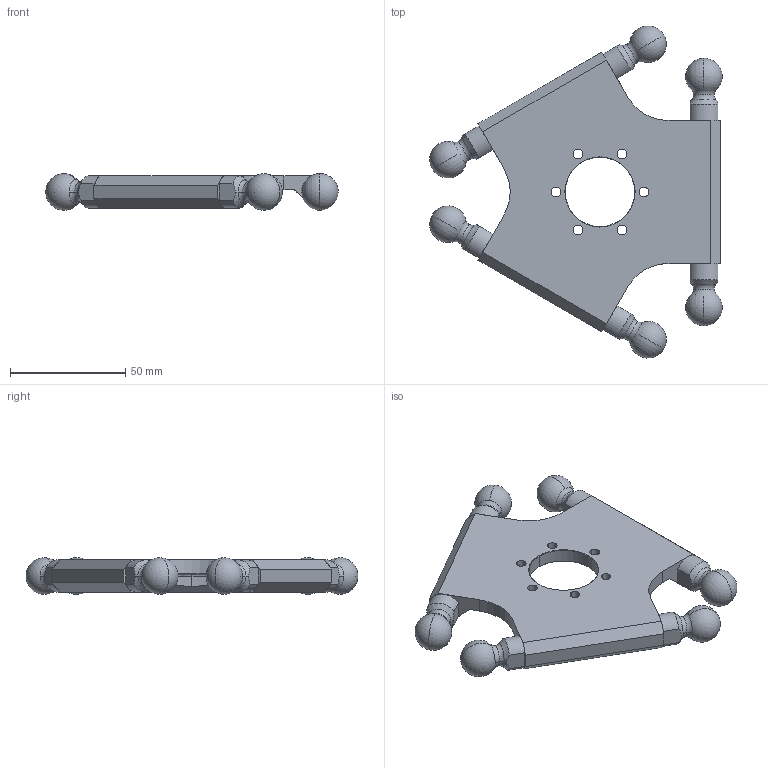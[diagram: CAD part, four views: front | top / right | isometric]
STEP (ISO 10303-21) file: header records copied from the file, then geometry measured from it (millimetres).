
FILE_DESCRIPTION (( 'STEP AP214' ), '1' );
FILE_NAME ('IRB360_X-STD_rev02_PLATE_CAD.STEP', '2023-12-05T12:29:21', ( '' ), ( '' ), 'SwSTEP 2.0', 'SolidWorks 2022', '' );
FILE_SCHEMA (( 'AUTOMOTIVE_DESIGN' ));
Length unit declared in the file: millimetre
Products named in the file (1): IRB360_X-STD_rev02_PLATE_CAD
Bounding box: 126.66 x 143.77 x 15.87 mm (x, y, z)
Volume: 79750.9 mm3; surface area: 34481.6 mm2
Topology: 7 solids, 7 shells, 200 faces, 503 edges, 316 vertices
Faces by surface type: cylinder 65, plane 53, cone 42, torus 28, sphere 12
Entity records: 6264 total; most frequent: CARTESIAN_POINT 1252, DIRECTION 1082, ORIENTED_EDGE 942, EDGE_CURVE 471, AXIS2_PLACEMENT_3D 444, VERTEX_POINT 298, CIRCLE 243, EDGE_LOOP 233
